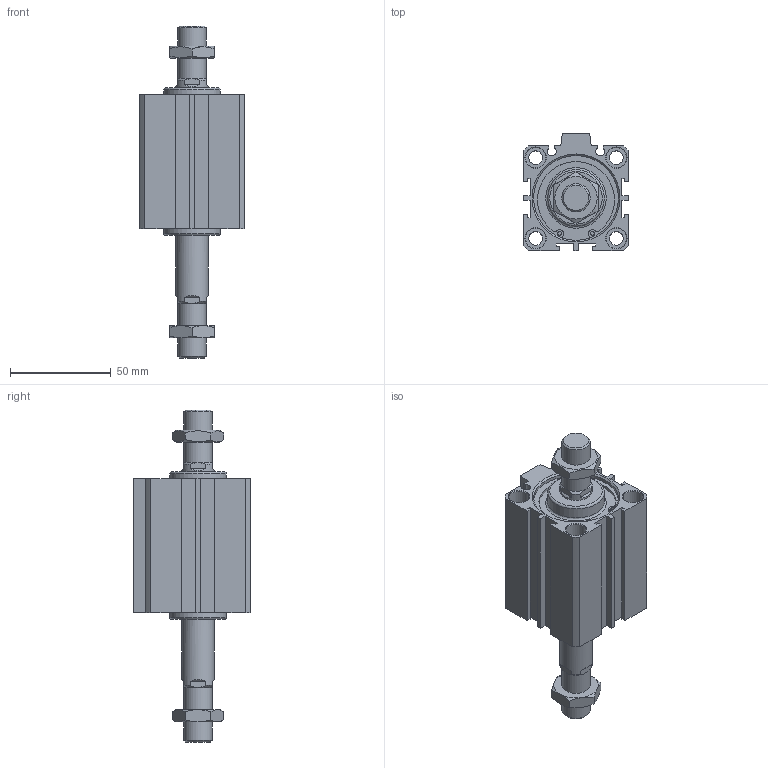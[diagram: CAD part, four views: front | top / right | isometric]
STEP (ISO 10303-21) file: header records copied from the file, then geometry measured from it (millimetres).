
FILE_DESCRIPTION((''),'2;1');
FILE_NAME('I:\3D電子目錄\氣缸\JDD\JDD-BS\JDD40-BS\JDD40x30-BS.stp','2007-02-27T14:37:25',('662F206'),(''),'Autodesk Inventor 10','Autodesk Inventor 10','');
FILE_SCHEMA(('AUTOMOTIVE_DESIGN { 1 0 10303 214 1 1 1 1 }'));
Length unit declared in the file: millimetre
Products named in the file (3): JDD40-BS; R 形環 42
Assembly tree (3 placements, depth 2):
  JDD40-BS
    JDD40-BS
    R 形環 42  x2
Bounding box: 52 x 58 x 164.5 mm (x, y, z)
Volume: 175617.3 mm3; surface area: 41781 mm2
Topology: 3 solids, 3 shells, 206 faces, 486 edges, 312 vertices
Faces by surface type: plane 114, cylinder 50, cone 38, bspline 2, torus 2
Full cylindrical faces by diameter (mm): 1.9 x4, 2.2 x2, 6.8 x4, 10 x8, 14 x4, 16 x2, 28 x2, 42 x4, 44.5 x2
Entity records: 5343 total; most frequent: CARTESIAN_POINT 1072, DIRECTION 880, ORIENTED_EDGE 792, EDGE_CURVE 396, AXIS2_PLACEMENT_3D 338, VERTEX_POINT 284, EDGE_LOOP 284, VECTOR 204
